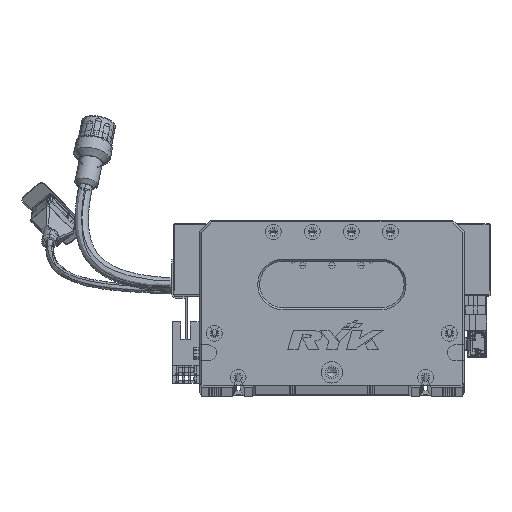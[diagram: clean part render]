
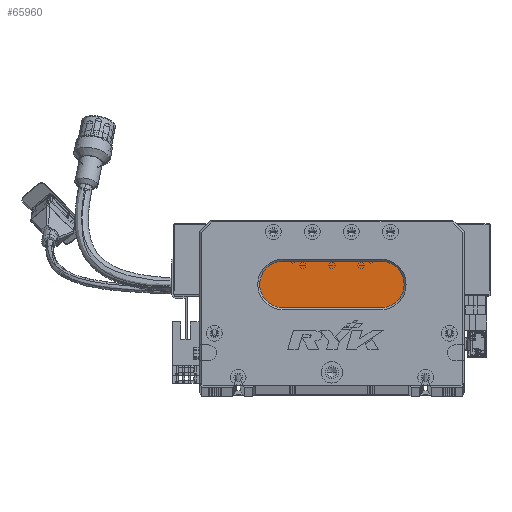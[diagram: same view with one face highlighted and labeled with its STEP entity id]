
A CAD part, top view. The second image highlights one B-rep face of the part: STEP entity #65960.
In plain terms, the highlighted planar face has unit normal (0, 0, 1) as drawn and (0, 0, -1) by its records, which use the part's own axes.
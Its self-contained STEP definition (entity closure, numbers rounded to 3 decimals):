
#136 = LINE ( 'NONE', #99657, #117123 ) ;
#4604 = AXIS2_PLACEMENT_3D ( 'NONE', #61300, #112411, #9523 ) ;
#9114 = EDGE_CURVE ( 'NONE', #34498, #88134, #37848, .T. ) ;
#9523 = DIRECTION ( 'NONE',  ( -1., 0., 0. ) ) ;
#14791 = VERTEX_POINT ( 'NONE', #35586 ) ;
#15111 = AXIS2_PLACEMENT_3D ( 'NONE', #79811, #26805, #69416 ) ;
#16727 = DIRECTION ( 'NONE',  ( -1., 0., 0. ) ) ;
#21916 = VERTEX_POINT ( 'NONE', #91162 ) ;
#26481 = ORIENTED_EDGE ( 'NONE', *, *, #59734, .T. ) ;
#26805 = DIRECTION ( 'NONE',  ( 0., 0., -1. ) ) ;
#34498 = VERTEX_POINT ( 'NONE', #103267 ) ;
#35586 = CARTESIAN_POINT ( 'NONE',  ( 43., 64., 13. ) ) ;
#36898 = CIRCLE ( 'NONE', #71163, 12. ) ;
#37266 = CARTESIAN_POINT ( 'NONE',  ( 43., 52., 13. ) ) ;
#37848 = CIRCLE ( 'NONE', #4604, 12. ) ;
#42835 = CARTESIAN_POINT ( 'NONE',  ( 31., 52., 13. ) ) ;
#42936 = ORIENTED_EDGE ( 'NONE', *, *, #50892, .T. ) ;
#43077 = EDGE_LOOP ( 'NONE', ( #26481, #65452, #105544, #42936, #67925 ) ) ;
#50892 = EDGE_CURVE ( 'NONE', #88134, #14791, #36898, .T. ) ;
#52253 = CIRCLE ( 'NONE', #15111, 12. ) ;
#59734 = EDGE_CURVE ( 'NONE', #21916, #74071, #52253, .T. ) ;
#61300 = CARTESIAN_POINT ( 'NONE',  ( 43., 52., 13. ) ) ;
#65264 = DIRECTION ( 'NONE',  ( 1., 0., 0. ) ) ;
#65452 = ORIENTED_EDGE ( 'NONE', *, *, #85338, .T. ) ;
#65960 = ADVANCED_FACE ( 'NONE', ( #103478 ), #74393, .T. ) ;
#67925 = ORIENTED_EDGE ( 'NONE', *, *, #84435, .T. ) ;
#69416 = DIRECTION ( 'NONE',  ( -1., 0., 0. ) ) ;
#71163 = AXIS2_PLACEMENT_3D ( 'NONE', #37266, #111488, #78975 ) ;
#74071 = VERTEX_POINT ( 'NONE', #108551 ) ;
#74393 = PLANE ( 'NONE',  #91390 ) ;
#74942 = LINE ( 'NONE', #128202, #92693 ) ;
#78975 = DIRECTION ( 'NONE',  ( -1., 0., 0. ) ) ;
#79811 = CARTESIAN_POINT ( 'NONE',  ( 93., 52., 13. ) ) ;
#84435 = EDGE_CURVE ( 'NONE', #14791, #21916, #74942, .T. ) ;
#84752 = CARTESIAN_POINT ( 'NONE',  ( 93., 52., 13. ) ) ;
#85338 = EDGE_CURVE ( 'NONE', #74071, #34498, #136, .T. ) ;
#88134 = VERTEX_POINT ( 'NONE', #42835 ) ;
#91162 = CARTESIAN_POINT ( 'NONE',  ( 93., 64., 13. ) ) ;
#91390 = AXIS2_PLACEMENT_3D ( 'NONE', #84752, #95150, #127375 ) ;
#92693 = VECTOR ( 'NONE', #65264, 1000. ) ;
#95150 = DIRECTION ( 'NONE',  ( 0., 0., -1. ) ) ;
#99657 = CARTESIAN_POINT ( 'NONE',  ( 93., 40., 13. ) ) ;
#103267 = CARTESIAN_POINT ( 'NONE',  ( 43., 40., 13. ) ) ;
#103478 = FACE_OUTER_BOUND ( 'NONE', #43077, .T. ) ;
#105544 = ORIENTED_EDGE ( 'NONE', *, *, #9114, .T. ) ;
#108551 = CARTESIAN_POINT ( 'NONE',  ( 93., 40., 13. ) ) ;
#111488 = DIRECTION ( 'NONE',  ( 0., 0., -1. ) ) ;
#112411 = DIRECTION ( 'NONE',  ( 0., 0., -1. ) ) ;
#117123 = VECTOR ( 'NONE', #16727, 1000. ) ;
#127375 = DIRECTION ( 'NONE',  ( -1., 0., 0. ) ) ;
#128202 = CARTESIAN_POINT ( 'NONE',  ( 93., 64., 13. ) ) ;
